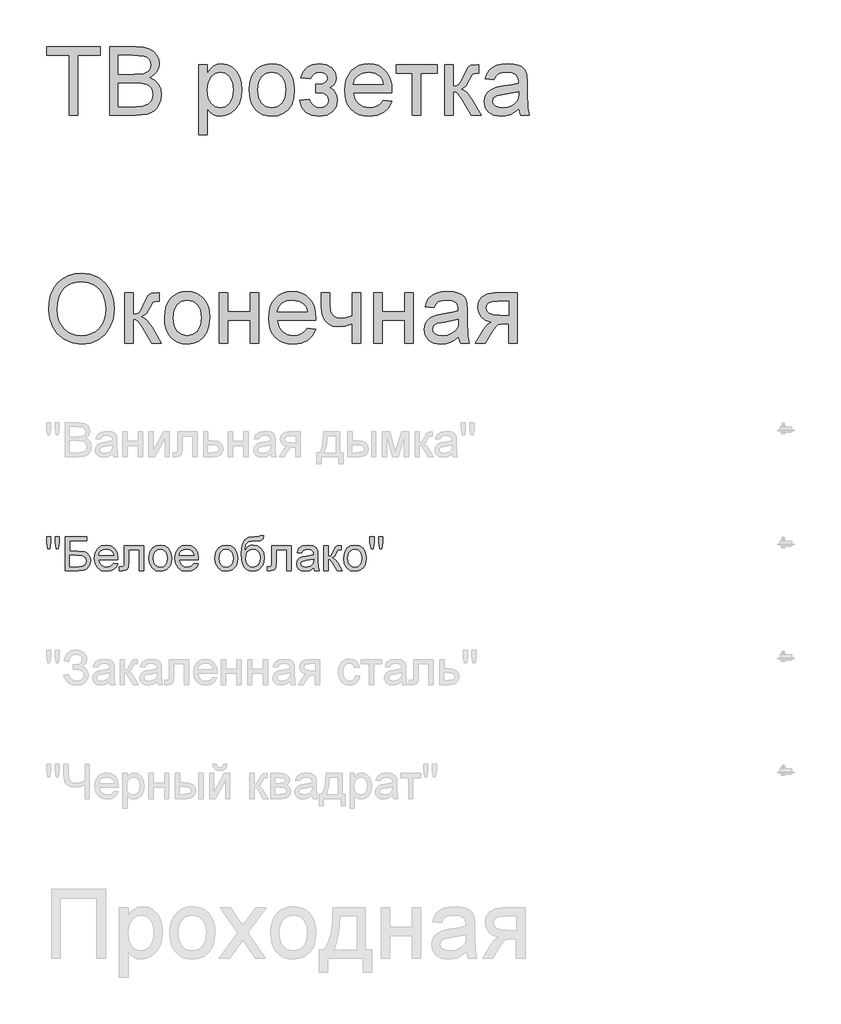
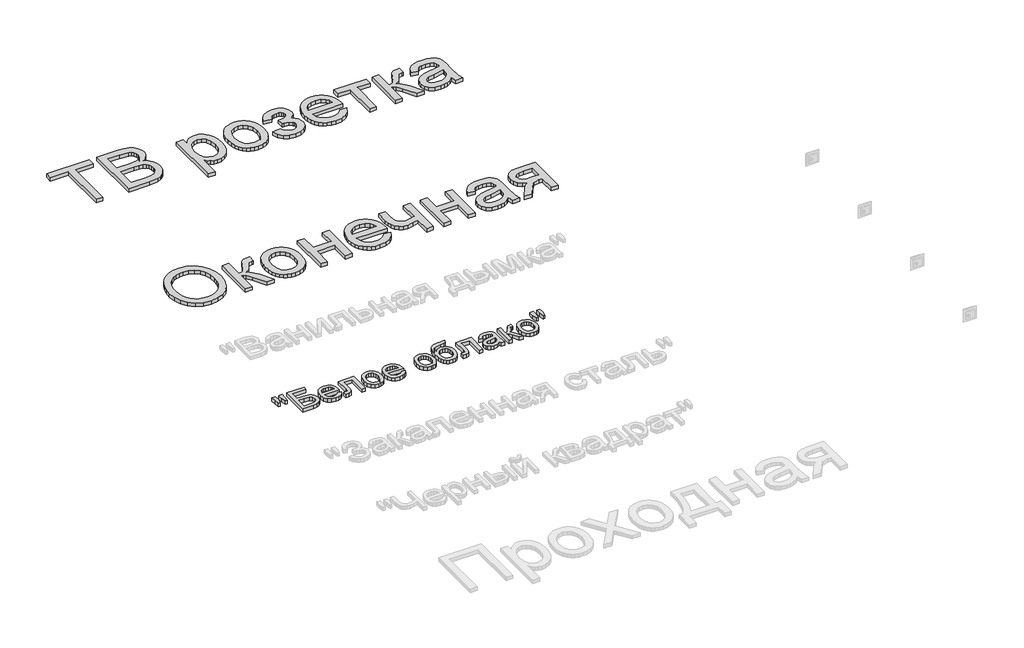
# One storey, part 149 of 168: 3 proxies.
"""IFC4 building model written with IfcOpenShell, lengths in millimetres."""

from ifc_helpers import new_model, si_unit, origin, origin_with_axes, place, context, project, spatial, polyline, outline, extrude, element, save

model = new_model("IFC4")

# Units and contexts
model_context = context("Model", 3, world=origin())
ifc_project = project(units=[si_unit("LENGTHUNIT", "METRE", prefix="MILLI")], contexts=[model_context])

# Site, building, storey
site = spatial("IfcSite", under=ifc_project)
building = spatial("IfcBuilding", under=site)
storey = spatial("IfcBuildingStorey", under=building, Name="Этаж 01", Elevation=0.0)

# Proxies
placement = place(None, origin())
element("IfcBuildingElementProxy", 1, Name="300 мм Arial 2", ObjectType="300 мм Arial 2", at=placement, inside=storey, context=model_context, shape_type="SweptSolid", body=[
    extrude(outline(polyline([(63674.4367343, -13648.4056816), (63674.4367343, -13384.7078674), (63575.550054, -13384.7078674), (63575.550054, -13347.0367511), (63810.9945309, -13347.0367511), (63810.9945309, -13384.7078674), (63712.1078506, -13384.7078674), (63712.1078506, -13648.4056816), (63674.4367343, -13648.4056816)])), origin_with_axes(), (0.0, 0.0, 1.0), 20.0),
    extrude(outline(polyline([(63853.3745367, -13648.4056816), (63853.3745367, -13347.0367511), (63968.3744484, -13347.0367511), (64000.003103, -13349.2532401), (64024.6971819, -13355.9027072), (64043.6247105, -13367.1506992), (64057.9537142, -13383.162763), (64066.9760202, -13401.9983212), (64069.9834555, -13421.7167961), (64067.4542668, -13439.8625756), (64059.8667006, -13456.9231031), (64047.1655747, -13471.849915), (64029.2957068, -13483.5945477), (64050.6420596, -13494.7413722), (64066.4150001, -13511.7007322), (64076.154676, -13533.3505876), (64079.4012346, -13558.5688983), (64077.1847455, -13579.5841573), (64070.5352785, -13599.072706), (64060.6116617, -13615.6457899), (64048.5727234, -13627.9146544), (64033.8298524, -13636.7990046), (64015.7944376, -13643.2185454), (63967.4915316, -13648.4056816), (63853.3745367, -13648.4056816)]), holes=[polyline([(63891.045653, -13469.4678791), (63959.8395861, -13469.4678791), (64000.0123, -13466.2305176), (64014.0745893, -13460.6479083), (64024.1821471, -13452.2877899), (64030.2797912, -13441.2789212), (64032.3123392, -13427.7500609), (64030.4177469, -13414.6166736), (64024.7339701, -13403.1755436), (64015.5185261, -13394.2452082), (64003.0289324, -13388.6442048), (63954.6156618, -13384.7078674), (63891.045653, -13384.7078674), (63891.045653, -13469.4678791)]), polyline([(63891.045653, -13610.7345653), (63968.300872, -13610.7345653), (63996.2599037, -13609.2630373), (64019.9147159, -13601.0592688), (64035.5864889, -13584.320638), (64040.1942109, -13572.4932319), (64041.7301183, -13558.9367803), (64039.9274965, -13543.1914309), (64034.5196311, -13529.6533735), (64025.0742609, -13519.0675691), (64011.1591245, -13512.1789788), (63991.4498466, -13508.3989913), (63964.6220521, -13507.1389954), (63891.045653, -13507.1389954), (63891.045653, -13610.7345653)])]), origin_with_axes(), (0.0, 0.0, 1.0), 20.0),
    extrude(outline(polyline([(64244.2123684, -13733.1656933), (64244.2123684, -13427.0878733), (64281.8834847, -13427.0878733), (64281.8834847, -13464.0232256), (64294.1707433, -13445.8038698), (64307.92953, -13432.7900442), (64323.969185, -13424.9817488), (64343.0990487, -13422.3789837), (64368.5748769, -13426.0210155), (64390.8501317, -13436.9471107), (64408.986714, -13454.4950819), (64422.0465249, -13478.0027414), (64429.9375937, -13505.7594379), (64432.5679499, -13536.0545202), (64429.5973028, -13568.271786), (64420.6853615, -13597.0861432), (64406.1172345, -13621.0352611), (64386.1780303, -13638.6568087), (64362.9554794, -13649.5001305), (64338.537312, -13653.1145711), (64321.219267, -13650.695747), (64305.7590262, -13643.4392746), (64292.5244714, -13632.4855882), (64281.8834847, -13618.975122), (64281.8834847, -13733.1656933), (64244.2123684, -13733.1656933)]), holes=[polyline([(64281.8834847, -13539.512611), (64285.9577778, -13573.2841782), (64298.1806571, -13596.9022022), (64316.2160719, -13610.8081417), (64337.7279716, -13615.4434548), (64359.5893591, -13610.6425948), (64378.0846264, -13596.2400147), (64390.6937818, -13571.7574679), (64394.8968336, -13536.7167078), (64390.7949494, -13503.1290817), (64378.4892966, -13479.1799638), (64360.481473, -13464.832566), (64339.273076, -13460.0501), (64317.9819055, -13465.1360686), (64299.2843031, -13480.3939744), (64286.2336893, -13505.3455707), (64281.8834847, -13539.512611)])]), origin_with_axes(), (0.0, 0.0, 1.0), 20.0),
    extrude(outline(polyline([(64465.5301767, -13537.7467774), (64467.5673232, -13509.0841715), (64473.6787629, -13484.385494), (64483.8644956, -13463.6507451), (64498.1245215, -13446.8799246), (64512.4811163, -13436.160763), (64528.3276333, -13428.504219), (64545.6640723, -13423.9102925), (64564.4904334, -13422.3789837), (64585.2734669, -13424.2436856), (64604.065339, -13429.8377912), (64620.8660499, -13439.1613005), (64635.6755995, -13452.2142135), (64647.7628223, -13468.5550719), (64656.3965528, -13487.7424172), (64661.5767912, -13509.7762495), (64663.3035373, -13534.6565687), (64660.2501167, -13572.7139611), (64651.0898551, -13601.6846682), (64636.0894667, -13623.3805088), (64615.5156661, -13639.6133019), (64591.0791046, -13649.7392538), (64564.4904334, -13653.1145711), (64543.4038973, -13651.256767), (64524.4372812, -13645.6833548), (64507.5905851, -13636.3943344), (64492.8638089, -13623.3897059), (64480.9053448, -13606.8901984), (64472.3635848, -13587.1165412), (64467.2385287, -13564.0687342), (64465.5301767, -13537.7467774)]), holes=[polyline([(64503.201293, -13537.673201), (64507.5606946, -13571.7666649), (64520.6388996, -13596.0560737), (64540.3205863, -13610.5966095), (64564.4904334, -13615.4434548), (64588.5499159, -13610.5690184), (64608.1948144, -13595.9457091), (64621.2730194, -13571.3344036), (64625.632421, -13536.4959786), (64621.2454282, -13503.3957961), (64608.0844498, -13479.4374812), (64588.4119601, -13464.8969453), (64564.4904334, -13460.0501), (64540.3205863, -13464.8785512), (64520.6388996, -13479.3639048), (64507.5606946, -13503.5981312), (64503.201293, -13537.673201)])]), origin_with_axes(), (0.0, 0.0, 1.0), 20.0),
    extrude(outline(polyline([(64757.4813281, -13549.5190013), (64757.4813281, -13511.847885), (64787.2061933, -13510.376357), (64802.2157787, -13502.5404705), (64807.5132794, -13495.1920276), (64809.279113, -13486.1697217), (64806.9154712, -13475.4551586), (64799.8245457, -13467.1502225), (64788.999618, -13461.8251307), (64775.4339694, -13460.0501), (64761.7211681, -13461.8159336), (64750.2340528, -13467.1134343), (64740.9726235, -13475.9426022), (64733.9368804, -13488.3034373), (64691.5568745, -13483.5945477), (64702.7956695, -13456.8127385), (64719.8837882, -13437.6828747), (64742.8212306, -13426.2049565), (64771.6079967, -13422.3789837), (64803.0986955, -13427.041888), (64826.9374488, -13441.0306009), (64841.9470342, -13461.4940369), (64846.9502293, -13485.5811105), (64845.1706001, -13497.9419455), (64839.8317127, -13508.9784054), (64830.9335669, -13518.6904901), (64818.4761629, -13527.0781996), (64833.0166987, -13537.5444423), (64843.3817739, -13550.5490709), (64849.5897826, -13566.1288733), (64851.6591188, -13584.320638), (64846.4076034, -13612.0497434), (64830.6530569, -13634.0214956), (64805.4623373, -13648.3413022), (64771.9023023, -13653.1145711), (64739.0780313, -13648.6999872), (64713.960888, -13635.4562353), (64696.5508726, -13613.3833156), (64686.847985, -13582.481228), (64729.2279908, -13577.7723385), (64735.5739553, -13593.7016289), (64746.224139, -13605.5842173), (64759.9461374, -13612.9786454), (64775.5075458, -13615.4434548), (64790.664284, -13613.079813), (64803.0251191, -13605.9888875), (64811.2472817, -13595.2191421), (64813.9880025, -13581.8190404), (64812.2865483, -13571.2056449), (64807.1821856, -13562.0269891), (64792.687635, -13551.4319876), (64764.838968, -13549.2982721), (64757.4813281, -13549.5190013)])), origin_with_axes(), (0.0, 0.0, 1.0), 20.0),
    extrude(outline(polyline([(65053.6999106, -13582.481228), (65090.6352629, -13587.1901176), (65077.3271317, -13615.0203905), (65056.0911436, -13635.8241173), (65027.405545, -13648.7919577), (64991.7485826, -13653.1145711), (64968.3742803, -13651.2498692), (64947.5475609, -13645.6557637), (64929.2684242, -13636.3322543), (64913.5368704, -13623.2793413), (64900.8863283, -13606.860308), (64891.8502268, -13587.4384379), (64886.4285659, -13565.013731), (64884.6213456, -13539.5861874), (64886.44696, -13513.2964203), (64891.9238032, -13490.1244531), (64901.0518752, -13470.0702859), (64913.831176, -13453.1339185), (64929.5213431, -13439.6786346), (64947.382014, -13430.0677174), (64967.4131886, -13424.3011672), (64989.614867, -13422.3789837), (65011.1014748, -13424.2965686), (65030.5325419, -13430.0493233), (65047.9080684, -13439.6372478), (65063.2280543, -13453.0603421), (65075.7337428, -13469.9599213), (65084.6663775, -13489.9773003), (65090.0259583, -13513.1124793), (65091.8124853, -13539.3654582), (65091.5917561, -13549.5190013), (64922.2924619, -13549.5190013), (64928.8131703, -13577.7171562), (64943.9607114, -13598.4473066), (64965.822099, -13611.1944178), (64992.4843466, -13615.4434548), (65012.5339153, -13613.4752861), (65029.4196989, -13607.5707801), (65043.1416973, -13597.3620547), (65053.6999106, -13582.481228)]), holes=[polyline([(64922.2924619, -13511.847885), (65054.141369, -13511.847885), (65049.0462033, -13491.945469), (65039.0582072, -13477.7084358), (65017.0956521, -13464.464684), (64989.4677142, -13460.0501), (64964.0746595, -13463.5725701), (64943.0777946, -13474.1399805), (64928.4820765, -13490.6118968), (64922.2924619, -13511.847885)])]), origin_with_axes(), (0.0, 0.0, 1.0), 20.0),
    extrude(outline(polyline([(65110.6480434, -13427.0878733), (65289.5858459, -13427.0878733), (65289.5858459, -13464.7589896), (65218.9525028, -13464.7589896), (65218.9525028, -13648.4056816), (65181.2813865, -13648.4056816), (65181.2813865, -13464.7589896), (65110.6480434, -13464.7589896), (65110.6480434, -13427.0878733)])), origin_with_axes(), (0.0, 0.0, 1.0), 20.0),
    extrude(outline(polyline([(65322.5480727, -13427.0878733), (65360.219189, -13427.0878733), (65360.219189, -13521.265664), (65375.5414741, -13519.5734069), (65385.4558938, -13514.4966353), (65394.2298794, -13501.2528835), (65406.130862, -13475.0596854), (65423.3109511, -13441.0306009), (65438.4676893, -13429.9573528), (65466.0220508, -13427.0878733), (65473.2325379, -13427.0878733), (65473.2325379, -13464.9797188), (65463.0789948, -13464.7589896), (65444.6848951, -13468.7321151), (65431.7354488, -13493.5273616), (65416.5419224, -13520.345959), (65395.2415549, -13533.4793463), (65407.1793257, -13538.7814455), (65419.0067318, -13548.1394438), (65442.3304503, -13579.0231373), (65482.650317, -13648.4056816), (65439.8288527, -13648.4056816), (65400.3183264, -13580.4946653), (65380.4526987, -13551.7630814), (65371.1636783, -13546.5483542), (65360.219189, -13544.8101117), (65360.219189, -13648.4056816), (65322.5480727, -13648.4056816), (65322.5480727, -13427.0878733)])), origin_with_axes(), (0.0, 0.0, 1.0), 20.0),
    extrude(outline(polyline([(65647.4614508, -13620.1523443), (65629.4628242, -13635.584994), (65610.9307687, -13645.6833548), (65591.44222, -13651.256767), (65570.5741138, -13653.1145711), (65539.0926121, -13648.6448049), (65515.8700611, -13635.2355061), (65501.5502545, -13614.8732377), (65496.7769856, -13589.5445623), (65498.5796074, -13573.9279716), (65503.9874727, -13559.7461207), (65512.3291969, -13547.6060149), (65522.9333954, -13538.1146594), (65549.3105345, -13525.7538244), (65581.9048793, -13520.0884417), (65620.4221242, -13514.1287533), (65647.2407216, -13507.1389954), (65647.4614508, -13498.7512859), (65644.8678827, -13481.9390788), (65637.0871785, -13470.9394071), (65619.6863602, -13462.7724268), (65595.4429367, -13460.0501), (65573.002135, -13461.8619189), (65557.330362, -13467.2973753), (65546.64339, -13477.3497509), (65539.1569914, -13493.0123268), (65501.4858751, -13488.3034373), (65508.0249776, -13467.7020455), (65517.7830475, -13451.5152378), (65531.6705928, -13439.1360086), (65550.5981215, -13429.9573528), (65573.747096, -13424.273576), (65600.298979, -13422.3789837), (65625.7656101, -13424.0528468), (65645.9531346, -13429.074436), (65661.1742522, -13436.625214), (65671.7416625, -13445.8866432), (65678.7498145, -13457.3369703), (65683.2931571, -13471.4544419), (65685.1325671, -13504.4166687), (65685.1325671, -13551.2848348), (65687.0455535, -13616.7310418), (65694.5503462, -13648.4056816), (65656.8792299, -13648.4056816), (65647.4614508, -13620.1523443)]), holes=[polyline([(65647.4614508, -13544.8101117), (65586.6873452, -13556.3616064), (65554.2769414, -13562.4684475), (65539.5984498, -13572.4012614), (65534.4481019, -13586.895812), (65537.2532021, -13598.0978187), (65545.6685027, -13607.2764745), (65559.5100628, -13613.4017097), (65578.5939413, -13615.4434548), (65598.827451, -13613.1901776), (65616.706516, -13606.4303459), (65631.2010666, -13596.4699409), (65641.2810333, -13584.6149436), (65645.7507995, -13572.4012614), (65647.2407216, -13555.4786896), (65647.4614508, -13544.8101117)])]), origin_with_axes(), (0.0, 0.0, 1.0), 20.0),
])
element("IfcBuildingElementProxy", 2, Name="300 мм Arial 2", ObjectType="300 мм Arial 2", at=placement, inside=storey, context=model_context, shape_type="SweptSolid", body=[
    extrude(outline(polyline([(63584.967833, -14501.6943419), (63587.4786277, -14466.3454807), (63595.0110115, -14435.0525185), (63607.5649846, -14407.8154552), (63625.1405469, -14384.634291), (63646.6846363, -14366.1252281), (63671.1441904, -14352.9044689), (63698.5192094, -14344.9720134), (63728.8096932, -14342.3278616), (63768.3386135, -14347.2942685), (63803.7840438, -14362.1934893), (63833.2146034, -14385.9770603), (63854.6989119, -14417.5965178), (63867.8322991, -14455.5251515), (63872.2100949, -14498.2362511), (63867.6023729, -14541.5175679), (63853.7792069, -14579.9796305), (63831.5039521, -14611.6542703), (63801.5399636, -14634.5733186), (63766.398036, -14648.479258), (63728.588964, -14653.1145711), (63688.4530383, -14647.9918143), (63652.805273, -14632.623544), (63623.4482897, -14608.3985146), (63602.1847104, -14576.7054807), (63589.2720524, -14540.2391779), (63584.967833, -14501.6943419)]), holes=[polyline([(63622.6389493, -14502.0622239), (63624.5220453, -14527.0368128), (63630.1713332, -14549.2063016), (63639.586813, -14568.5706901), (63652.7684848, -14585.1299784), (63668.7920449, -14598.3921243), (63686.73319, -14607.8650857), (63706.5919199, -14613.5488625), (63728.3682348, -14615.4434548), (63750.5170301, -14613.5304684), (63770.6102849, -14607.7915093), (63788.6479989, -14598.2265774), (63804.6301724, -14584.8356728), (63817.7152751, -14567.9268966), (63827.061777, -14547.80835), (63832.6696782, -14524.480033), (63834.5389786, -14497.9419455), (63831.3384052, -14464.5934427), (63821.7366851, -14435.7698884), (63805.9821387, -14412.1978495), (63784.3230862, -14394.6038931), (63758.1942675, -14383.6502067), (63729.0304224, -14379.9989779), (63708.0105649, -14381.7579137), (63688.5082206, -14387.034721), (63670.5233895, -14395.8294), (63654.0560717, -14408.1419505), (63640.3110807, -14424.5655823), (63630.4932299, -14445.6935052), (63624.6025195, -14471.525719), (63622.6389493, -14502.0622239)])]), origin_with_axes(), (0.0, 0.0, 1.0), 20.0),
    extrude(outline(polyline([(63919.2989903, -14427.0878733), (63956.9701066, -14427.0878733), (63956.9701066, -14521.265664), (63972.2923917, -14519.5734069), (63982.2068114, -14514.4966353), (63990.980797, -14501.2528835), (64002.8817796, -14475.0596854), (64020.0618687, -14441.0306009), (64035.2186069, -14429.9573528), (64062.7729684, -14427.0878733), (64069.9834555, -14427.0878733), (64069.9834555, -14464.9797188), (64059.8299124, -14464.7589896), (64041.4358127, -14468.7321151), (64028.4863664, -14493.5273616), (64013.29284, -14520.345959), (63991.9924725, -14533.4793463), (64003.9302433, -14538.7814455), (64015.7576494, -14548.1394438), (64039.0813679, -14579.0231373), (64079.4012346, -14648.4056816), (64036.5797703, -14648.4056816), (63997.069244, -14580.4946653), (63977.2036163, -14551.7630814), (63967.9145959, -14546.5483542), (63956.9701066, -14544.8101117), (63956.9701066, -14648.4056816), (63919.2989903, -14648.4056816), (63919.2989903, -14427.0878733)])), origin_with_axes(), (0.0, 0.0, 1.0), 20.0),
    extrude(outline(polyline([(64093.5279032, -14537.7467774), (64095.5650497, -14509.0841715), (64101.6764894, -14484.385494), (64111.8622221, -14463.6507451), (64126.1222479, -14446.8799246), (64140.4788428, -14436.160763), (64156.3253598, -14428.504219), (64173.6617988, -14423.9102925), (64192.4881599, -14422.3789837), (64213.2711933, -14424.2436856), (64232.0630655, -14429.8377912), (64248.8637764, -14439.1613005), (64263.6733259, -14452.2142135), (64275.7605487, -14468.5550719), (64284.3942793, -14487.7424172), (64289.5745177, -14509.7762495), (64291.3012638, -14534.6565687), (64288.2478432, -14572.7139611), (64279.0875815, -14601.6846682), (64264.0871932, -14623.3805088), (64243.5133926, -14639.6133019), (64219.0768311, -14649.7392538), (64192.4881599, -14653.1145711), (64171.4016238, -14651.256767), (64152.4350077, -14645.6833548), (64135.5883115, -14636.3943344), (64120.8615354, -14623.3897059), (64108.9030713, -14606.8901984), (64100.3613112, -14587.1165412), (64095.2362552, -14564.0687342), (64093.5279032, -14537.7467774)]), holes=[polyline([(64131.1990195, -14537.673201), (64135.5584211, -14571.7666649), (64148.6366261, -14596.0560737), (64168.3183128, -14610.5966095), (64192.4881599, -14615.4434548), (64216.5476424, -14610.5690184), (64236.1925409, -14595.9457091), (64249.2707458, -14571.3344036), (64253.6301475, -14536.4959786), (64249.2431547, -14503.3957961), (64236.0821763, -14479.4374812), (64216.4096866, -14464.8969453), (64192.4881599, -14460.0501), (64168.3183128, -14464.8785512), (64148.6366261, -14479.3639048), (64135.5584211, -14503.5981312), (64131.1990195, -14537.673201)])]), origin_with_axes(), (0.0, 0.0, 1.0), 20.0),
    extrude(outline(polyline([(64333.6812696, -14427.0878733), (64371.3523859, -14427.0878733), (64371.3523859, -14511.847885), (64470.2390662, -14511.847885), (64470.2390662, -14427.0878733), (64507.9101825, -14427.0878733), (64507.9101825, -14648.4056816), (64470.2390662, -14648.4056816), (64470.2390662, -14549.5190013), (64371.3523859, -14549.5190013), (64371.3523859, -14648.4056816), (64333.6812696, -14648.4056816), (64333.6812696, -14427.0878733)])), origin_with_axes(), (0.0, 0.0, 1.0), 20.0),
    extrude(outline(polyline([(64719.3687534, -14582.481228), (64756.3041057, -14587.1901176), (64742.9959745, -14615.0203905), (64721.7599863, -14635.8241173), (64693.0743878, -14648.7919577), (64657.4174254, -14653.1145711), (64634.0431231, -14651.2498692), (64613.2164037, -14645.6557637), (64594.937267, -14636.3322543), (64579.2057132, -14623.2793413), (64566.5551711, -14606.860308), (64557.5190696, -14587.4384379), (64552.0974087, -14565.013731), (64550.2901884, -14539.5861874), (64552.1158028, -14513.2964203), (64557.592646, -14490.1244531), (64566.720718, -14470.0702859), (64579.5000188, -14453.1339185), (64595.1901859, -14439.6786346), (64613.0508568, -14430.0677174), (64633.0820314, -14424.3011672), (64655.2837098, -14422.3789837), (64676.7703176, -14424.2965686), (64696.2013847, -14430.0493233), (64713.5769112, -14439.6372478), (64728.896897, -14453.0603421), (64741.4025856, -14469.9599213), (64750.3352203, -14489.9773003), (64755.6948011, -14513.1124793), (64757.4813281, -14539.3654582), (64757.2605989, -14549.5190013), (64587.9613047, -14549.5190013), (64594.4820131, -14577.7171562), (64609.6295542, -14598.4473066), (64631.4909418, -14611.1944178), (64658.1531894, -14615.4434548), (64678.2027581, -14613.4752861), (64695.0885417, -14607.5707801), (64708.8105401, -14597.3620547), (64719.3687534, -14582.481228)]), holes=[polyline([(64587.9613047, -14511.847885), (64719.8102118, -14511.847885), (64714.7150461, -14491.945469), (64704.72705, -14477.7084358), (64682.7644949, -14464.464684), (64655.136557, -14460.0501), (64629.7435023, -14463.5725701), (64608.7466374, -14474.1399805), (64594.1509193, -14490.6118968), (64587.9613047, -14511.847885)])]), origin_with_axes(), (0.0, 0.0, 1.0), 20.0),
    extrude(outline(polyline([(64781.0257758, -14427.0878733), (64818.6968921, -14427.0878733), (64818.6968921, -14469.5414555), (64821.7503126, -14509.3462874), (64826.9466458, -14520.9161761), (64836.4288042, -14530.9041723), (64849.5254033, -14537.8019597), (64865.5650583, -14540.1012222), (64888.6128653, -14537.2501367), (64917.5835724, -14528.6968803), (64917.5835724, -14427.0878733), (64955.2546887, -14427.0878733), (64955.2546887, -14648.4056816), (64917.5835724, -14648.4056816), (64917.5835724, -14564.8228923), (64885.430686, -14574.5349769), (64855.4850916, -14577.7723385), (64832.703999, -14574.3970212), (64812.7739919, -14564.2710693), (64797.2401747, -14549.2522868), (64787.6476517, -14531.1984779), (64782.6812447, -14510.6522685), (64781.0257758, -14488.1562845), (64781.0257758, -14427.0878733)])), origin_with_axes(), (0.0, 0.0, 1.0), 20.0),
    extrude(outline(polyline([(65011.7613631, -14427.0878733), (65049.4324794, -14427.0878733), (65049.4324794, -14511.847885), (65148.3191597, -14511.847885), (65148.3191597, -14427.0878733), (65185.9902761, -14427.0878733), (65185.9902761, -14648.4056816), (65148.3191597, -14648.4056816), (65148.3191597, -14549.5190013), (65049.4324794, -14549.5190013), (65049.4324794, -14648.4056816), (65011.7613631, -14648.4056816), (65011.7613631, -14427.0878733)])), origin_with_axes(), (0.0, 0.0, 1.0), 20.0),
    extrude(outline(polyline([(65383.7636367, -14620.1523443), (65365.76501, -14635.584994), (65347.2329545, -14645.6833548), (65327.7444058, -14651.256767), (65306.8762997, -14653.1145711), (65275.3947979, -14648.6448049), (65252.172247, -14635.2355061), (65237.8524403, -14614.8732377), (65233.0791714, -14589.5445623), (65234.8817932, -14573.9279716), (65240.2896585, -14559.7461207), (65248.6313828, -14547.6060149), (65259.2355813, -14538.1146594), (65285.6127203, -14525.7538244), (65318.2070651, -14520.0884417), (65356.72431, -14514.1287533), (65383.5429075, -14507.1389954), (65383.7636367, -14498.7512859), (65381.1700686, -14481.9390788), (65373.3893644, -14470.9394071), (65355.988546, -14462.7724268), (65331.7451225, -14460.0501), (65309.3043208, -14461.8619189), (65293.6325478, -14467.2973753), (65282.9455759, -14477.3497509), (65275.4591773, -14493.0123268), (65237.788061, -14488.3034373), (65244.3271634, -14467.7020455), (65254.0852334, -14451.5152378), (65267.9727787, -14439.1360086), (65286.9003073, -14429.9573528), (65310.0492819, -14424.273576), (65336.6011649, -14422.3789837), (65362.067796, -14424.0528468), (65382.2553205, -14429.074436), (65397.476438, -14436.625214), (65408.0438483, -14445.8866432), (65415.0520003, -14457.3369703), (65419.595343, -14471.4544419), (65421.434753, -14504.4166687), (65421.434753, -14551.2848348), (65423.3477393, -14616.7310418), (65430.852532, -14648.4056816), (65393.1814157, -14648.4056816), (65383.7636367, -14620.1523443)]), holes=[polyline([(65383.7636367, -14544.8101117), (65322.9895311, -14556.3616064), (65290.5791273, -14562.4684475), (65275.9006357, -14572.4012614), (65270.7502877, -14586.895812), (65273.555388, -14598.0978187), (65281.9706886, -14607.2764745), (65295.8122487, -14613.4017097), (65314.8961272, -14615.4434548), (65335.1296369, -14613.1901776), (65353.0087019, -14606.4303459), (65367.5032525, -14596.4699409), (65377.5832191, -14584.6149436), (65382.0529854, -14572.4012614), (65383.5429075, -14555.4786896), (65383.7636367, -14544.8101117)])]), origin_with_axes(), (0.0, 0.0, 1.0), 20.0),
    extrude(outline(polyline([(65642.7525613, -14427.0878733), (65642.7525613, -14648.4056816), (65605.081445, -14648.4056816), (65605.081445, -14563.6456699), (65584.5536296, -14563.6456699), (65556.594598, -14568.4281358), (65545.4293794, -14578.8575904), (65530.3278235, -14600.5810222), (65500.3086527, -14648.4056816), (65456.7514245, -14648.4056816), (65494.5696936, -14587.9258816), (65511.2715362, -14566.2208438), (65526.6490036, -14556.5823356), (65500.8972639, -14548.6912668), (65482.7974698, -14533.7000755), (65472.0921037, -14513.7608713), (65468.5236483, -14491.025764), (65473.3980848, -14465.2372362), (65488.0213941, -14444.8197854), (65511.8785415, -14431.5208513), (65544.4544922, -14427.0878733), (65642.7525613, -14427.0878733)]), holes=[polyline([(65605.081445, -14464.7589896), (65555.4173756, -14464.7589896), (65529.7668035, -14466.9386904), (65515.2078735, -14473.4777929), (65508.4480419, -14482.9415572), (65506.1947647, -14493.8952436), (65509.5148997, -14508.2518385), (65519.4753047, -14518.2122435), (65537.8786015, -14524.033976), (65566.5274119, -14525.9745536), (65605.081445, -14525.9745536), (65605.081445, -14464.7589896)])]), origin_with_axes(), (0.0, 0.0, 1.0), 20.0),
])
element("IfcBuildingElementProxy", 3, Name="150", ObjectType="150", at=placement, inside=storey, context=model_context, shape_type="SweptSolid", body=[
    extrude(outline(polyline([(63580.1485789, -15551.873446), (63575.550054, -15522.7739802), (63575.550054, -15497.7212163), (63594.3856121, -15497.7212163), (63594.3856121, -15522.7739802), (63590.2653338, -15551.873446), (63580.1485789, -15551.873446)])), origin_with_axes(), (0.0, 0.0, 1.0), 20.0),
    extrude(outline(polyline([(63617.7093306, -15551.873446), (63613.2211703, -15522.7739802), (63613.2211703, -15497.7212163), (63632.0567284, -15497.7212163), (63632.0567284, -15522.7739802), (63627.6421445, -15551.873446), (63617.7093306, -15551.873446)])), origin_with_axes(), (0.0, 0.0, 1.0), 20.0),
    extrude(outline(polyline([(63657.9556209, -15497.7212163), (63752.1334117, -15497.7212163), (63752.1334117, -15516.5567745), (63676.791179, -15516.5567745), (63676.791179, -15561.2912251), (63712.0710624, -15561.2912251), (63743.157091, -15565.1171979), (63753.5589544, -15570.6446248), (63761.6615553, -15579.5749603), (63766.8762826, -15591.0712726), (63768.614525, -15604.2966303), (63763.6665122, -15625.7625448), (63748.8960501, -15642.0781113), (63735.6247071, -15646.823789), (63715.4555767, -15648.4056816), (63657.9556209, -15648.4056816), (63657.9556209, -15497.7212163)]), holes=[polyline([(63676.791179, -15629.5701234), (63717.1478339, -15629.5701234), (63731.4124583, -15628.015822), (63741.6119866, -15623.3529177), (63747.7372218, -15615.5814105), (63749.7789669, -15604.7013005), (63745.1068655, -15589.9492325), (63732.102237, -15582.0765578), (63703.7201411, -15580.1267833), (63676.791179, -15580.1267833), (63676.791179, -15629.5701234)])]), origin_with_axes(), (0.0, 0.0, 1.0), 20.0),
    extrude(outline(polyline([(63869.6349209, -15615.4434548), (63888.1025971, -15617.7978996), (63881.4485315, -15631.713036), (63870.8305374, -15642.1148995), (63856.4877381, -15648.5988196), (63838.6592569, -15650.7601263), (63816.5587461, -15647.0307226), (63799.5534008, -15635.8425114), (63788.710079, -15617.9220597), (63785.0956384, -15593.9959345), (63788.7468672, -15569.2650674), (63799.7005536, -15550.7698), (63816.4759726, -15539.2366995), (63837.5923991, -15535.3923327), (63858.0512366, -15539.2275025), (63874.3989927, -15550.7330118), (63885.1181544, -15569.191491), (63888.6912083, -15593.8855699), (63888.5808437, -15598.9623414), (63803.9311966, -15598.9623414), (63807.1915508, -15613.0614189), (63814.7653213, -15623.4264941), (63825.6960151, -15629.8000497), (63839.0271389, -15631.9245682), (63857.4948151, -15627.9882308), (63869.6349209, -15615.4434548)]), holes=[polyline([(63803.9311966, -15580.1267833), (63869.8556501, -15580.1267833), (63867.3080673, -15570.1755753), (63862.3140692, -15563.0570587), (63851.3327917, -15556.4351828), (63837.5188227, -15554.2278908), (63824.8222954, -15555.9891259), (63814.3238629, -15561.272831), (63807.0260039, -15569.5087892), (63803.9311966, -15580.1267833)])]), origin_with_axes(), (0.0, 0.0, 1.0), 20.0),
    extrude(outline(polyline([(63916.9445455, -15537.7467774), (64001.7045572, -15537.7467774), (64001.7045572, -15648.295317), (63982.868999, -15648.295317), (63982.868999, -15556.5823356), (63935.7801036, -15556.5823356), (63935.7801036, -15609.3734019), (63934.5109108, -15633.72719), (63927.539547, -15644.0094917), (63911.0584336, -15648.4056816), (63895.7545426, -15647.4491884), (63895.7545426, -15629.5701234), (63904.1790403, -15629.5701234), (63912.6955084, -15628.4112951), (63916.0984169, -15624.7324752), (63916.9445455, -15608.3065441), (63916.9445455, -15537.7467774)])), origin_with_axes(), (0.0, 0.0, 1.0), 20.0),
    extrude(outline(polyline([(64025.2490049, -15593.0762295), (64029.323298, -15566.3955878), (64041.5461773, -15547.6428031), (64056.6477332, -15538.4549503), (64074.7291332, -15535.3923327), (64094.516586, -15539.1217364), (64110.3217163, -15550.3099476), (64120.6821929, -15568.0740494), (64124.1356852, -15591.5311251), (64122.6089749, -15610.5598213), (64118.0288441, -15625.0451749), (64110.5286499, -15635.8930952), (64100.2417496, -15644.0094917), (64088.0234688, -15649.0724677), (64074.7291332, -15650.7601263), (64054.7025571, -15647.0445182), (64038.915821, -15635.8976937), (64028.6657089, -15617.7611114), (64025.2490049, -15593.0762295)]), holes=[polyline([(64044.084563, -15593.0394413), (64046.2642638, -15610.0861732), (64052.8033663, -15622.2308776), (64062.6442097, -15629.5011455), (64074.7291332, -15631.9245682), (64086.7588745, -15629.48735), (64096.5813237, -15622.1756953), (64103.1204262, -15609.8700426), (64105.300127, -15592.4508301), (64103.1066306, -15575.9007388), (64096.5261414, -15563.9215814), (64086.6898966, -15556.6513134), (64074.7291332, -15554.2278908), (64062.6442097, -15556.6421164), (64052.8033663, -15563.8847932), (64046.2642638, -15576.0019064), (64044.084563, -15593.0394413)])]), origin_with_axes(), (0.0, 0.0, 1.0), 20.0),
    extrude(outline(polyline([(64222.8016363, -15615.4434548), (64241.2693124, -15617.7978996), (64234.6152469, -15631.713036), (64223.9972528, -15642.1148995), (64209.6544535, -15648.5988196), (64191.8259723, -15650.7601263), (64169.7254614, -15647.0307226), (64152.7201162, -15635.8425114), (64141.8767944, -15617.9220597), (64138.2623538, -15593.9959345), (64141.9135826, -15569.2650674), (64152.867269, -15550.7698), (64169.642688, -15539.2366995), (64190.7591145, -15535.3923327), (64211.217952, -15539.2275025), (64227.5657081, -15550.7330118), (64238.2848698, -15569.191491), (64241.8579236, -15593.8855699), (64241.747559, -15598.9623414), (64157.0979119, -15598.9623414), (64160.3582661, -15613.0614189), (64167.9320367, -15623.4264941), (64178.8627305, -15629.8000497), (64192.1938543, -15631.9245682), (64210.6615304, -15627.9882308), (64222.8016363, -15615.4434548)]), holes=[polyline([(64157.0979119, -15580.1267833), (64223.0223655, -15580.1267833), (64220.4747827, -15570.1755753), (64215.4807846, -15563.0570587), (64204.499507, -15556.4351828), (64190.6855381, -15554.2278908), (64177.9890107, -15555.9891259), (64167.4905783, -15561.272831), (64160.1927192, -15569.5087892), (64157.0979119, -15580.1267833)])]), origin_with_axes(), (0.0, 0.0, 1.0), 20.0),
    extrude(outline(polyline([(64314.8457115, -15593.0762295), (64318.9200046, -15566.3955878), (64331.1428839, -15547.6428031), (64346.2444398, -15538.4549503), (64364.3258398, -15535.3923327), (64384.1132926, -15539.1217364), (64399.9184229, -15550.3099476), (64410.2788995, -15568.0740494), (64413.7323918, -15591.5311251), (64412.2056815, -15610.5598213), (64407.6255507, -15625.0451749), (64400.1253565, -15635.8930952), (64389.8384562, -15644.0094917), (64377.6201754, -15649.0724677), (64364.3258398, -15650.7601263), (64344.2992637, -15647.0445182), (64328.5125276, -15635.8976937), (64318.2624155, -15617.7611114), (64314.8457115, -15593.0762295)]), holes=[polyline([(64333.6812696, -15593.0394413), (64335.8609704, -15610.0861732), (64342.4000729, -15622.2308776), (64352.2409163, -15629.5011455), (64364.3258398, -15631.9245682), (64376.3555811, -15629.48735), (64386.1780303, -15622.1756953), (64392.7171328, -15609.8700426), (64394.8968336, -15592.4508301), (64392.7033372, -15575.9007388), (64386.122848, -15563.9215814), (64376.2866032, -15556.6513134), (64364.3258398, -15554.2278908), (64352.2409163, -15556.6421164), (64342.4000729, -15563.8847932), (64335.8609704, -15576.0019064), (64333.6812696, -15593.0394413)])]), origin_with_axes(), (0.0, 0.0, 1.0), 20.0),
    extrude(outline(polyline([(64512.6190721, -15495.3667716), (64529.1001855, -15495.3667716), (64524.2441431, -15510.0636573), (64514.6424231, -15515.3795521), (64491.576222, -15516.5567745), (64460.5085875, -15520.897782), (64453.3808738, -15526.5447707), (64448.5892108, -15534.8037215), (64444.560903, -15559.4150269), (64460.8764695, -15541.3888092), (64470.7954878, -15536.8914518), (64481.9009255, -15535.3923327), (64501.4998388, -15539.2045098), (64517.401538, -15550.6410414), (64527.9413572, -15568.5798871), (64531.4546302, -15591.8990071), (64529.7117893, -15609.8792396), (64524.4832664, -15624.3094109), (64507.9469707, -15643.8623389), (64496.6529935, -15649.0356795), (64481.9009255, -15650.7601263), (64464.9001788, -15648.5390388), (64452.1576662, -15641.8757762), (64442.7812738, -15631.7498242), (64435.8788879, -15619.1406689), (64431.6298508, -15600.1533594), (64430.2135052, -15570.8929452), (64433.786559, -15534.7531377), (64444.5057207, -15512.7124076), (64462.6377045, -15501.4690142), (64488.449225, -15497.7212163), (64509.4184987, -15497.2981521), (64512.6190721, -15495.3667716)]), holes=[polyline([(64512.6190721, -15591.3103959), (64510.577327, -15576.48935), (64504.4520918, -15564.6205572), (64494.6112484, -15556.8260574), (64481.4226789, -15554.2278908), (64467.6730893, -15556.9732102), (64457.473561, -15565.2091684), (64451.1551877, -15578.0344544), (64449.0490633, -15594.5477575), (64451.3759169, -15610.5552228), (64458.3564778, -15622.304454), (64468.7491442, -15629.5195396), (64481.3123143, -15631.9245682), (64493.9398638, -15629.1424606), (64503.937057, -15620.7961378), (64510.4485683, -15607.8604872), (64512.6190721, -15591.3103959)])]), origin_with_axes(), (0.0, 0.0, 1.0), 20.0),
    extrude(outline(polyline([(64564.416857, -15537.7467774), (64649.1768687, -15537.7467774), (64649.1768687, -15648.295317), (64630.3413105, -15648.295317), (64630.3413105, -15556.5823356), (64583.2524152, -15556.5823356), (64583.2524152, -15609.3734019), (64581.9832223, -15633.72719), (64575.0118585, -15644.0094917), (64558.5307451, -15648.4056816), (64543.2268541, -15647.4491884), (64543.2268541, -15629.5701234), (64551.6513518, -15629.5701234), (64560.16782, -15628.4112951), (64563.5707284, -15624.7324752), (64564.416857, -15608.3065441), (64564.416857, -15537.7467774)])), origin_with_axes(), (0.0, 0.0, 1.0), 20.0),
    extrude(outline(polyline([(64748.063549, -15634.279013), (64729.7982079, -15647.0445182), (64709.6198805, -15650.7601263), (64693.8791296, -15648.5252432), (64682.2678542, -15641.8205939), (64675.1079508, -15631.6394596), (64672.7213164, -15618.975122), (64676.3265599, -15604.0759012), (64685.7995213, -15593.2601705), (64698.9880908, -15587.079753), (64715.2852632, -15584.2470616), (64747.9531844, -15577.7723385), (64748.063549, -15573.5784838), (64746.766765, -15565.1723802), (64742.8764129, -15559.6725443), (64734.1760037, -15555.5890542), (64722.0542919, -15554.2278908), (64702.9980046, -15557.8515285), (64693.9113193, -15570.7090042), (64675.0757612, -15568.3545594), (64683.2243473, -15549.9604597), (64699.6318843, -15539.1815172), (64724.4823131, -15535.3923327), (64747.3093909, -15538.7400588), (64760.2036548, -15547.1461624), (64765.9794022, -15559.9300617), (64766.8991071, -15576.4111751), (64766.8991071, -15599.8452582), (64767.8556003, -15632.5683617), (64771.6079967, -15648.4056816), (64752.7724385, -15648.4056816), (64748.063549, -15634.279013)]), holes=[polyline([(64748.063549, -15596.6078966), (64717.6764962, -15602.383644), (64701.4712943, -15605.4370645), (64694.1320485, -15610.4034715), (64691.5568745, -15617.6507468), (64697.167075, -15627.841078), (64713.6297942, -15631.9245682), (64732.6860816, -15627.4180137), (64744.9733402, -15616.5103126), (64747.9531844, -15601.9421856), (64748.063549, -15596.6078966)])]), origin_with_axes(), (0.0, 0.0, 1.0), 20.0),
    extrude(outline(polyline([(64792.7979996, -15537.7467774), (64811.6335578, -15537.7467774), (64811.6335578, -15584.8356728), (64824.2519102, -15581.4511584), (64834.5893943, -15561.7326835), (64843.1794388, -15544.7181412), (64850.7578079, -15539.1815172), (64864.5349887, -15537.7467774), (64868.1402322, -15537.7467774), (64868.1402322, -15556.6927002), (64863.0634607, -15556.5823356), (64853.8664108, -15558.5688983), (64847.3916877, -15570.9665216), (64839.7949245, -15584.3758203), (64829.1447407, -15590.9425139), (64841.0273292, -15598.2725627), (64852.6891884, -15613.7144094), (64872.8491218, -15648.4056816), (64851.4383896, -15648.4056816), (64831.6831265, -15614.4501734), (64821.7503126, -15600.0843815), (64811.6335578, -15596.6078966), (64811.6335578, -15648.4056816), (64792.7979996, -15648.4056816), (64792.7979996, -15537.7467774)])), origin_with_axes(), (0.0, 0.0, 1.0), 20.0),
    extrude(outline(polyline([(64879.9124561, -15593.0762295), (64883.9867492, -15566.3955878), (64896.2096285, -15547.6428031), (64911.3111844, -15538.4549503), (64929.3925844, -15535.3923327), (64949.1800372, -15539.1217364), (64964.9851674, -15550.3099476), (64975.3456441, -15568.0740494), (64978.7991364, -15591.5311251), (64977.2724261, -15610.5598213), (64972.6922952, -15625.0451749), (64965.1921011, -15635.8930952), (64954.9052008, -15644.0094917), (64942.68692, -15649.0724677), (64929.3925844, -15650.7601263), (64909.3660083, -15647.0445182), (64893.5792722, -15635.8976937), (64883.3291601, -15617.7611114), (64879.9124561, -15593.0762295)]), holes=[polyline([(64898.7480142, -15593.0394413), (64900.927715, -15610.0861732), (64907.4668175, -15622.2308776), (64917.3076609, -15629.5011455), (64929.3925844, -15631.9245682), (64941.4223257, -15629.48735), (64951.2447749, -15622.1756953), (64957.7838774, -15609.8700426), (64959.9635782, -15592.4508301), (64957.7700818, -15575.9007388), (64951.1895926, -15563.9215814), (64941.3533478, -15556.6513134), (64929.3925844, -15554.2278908), (64917.3076609, -15556.6421164), (64907.4668175, -15563.8847932), (64900.927715, -15576.0019064), (64898.7480142, -15593.0394413)])]), origin_with_axes(), (0.0, 0.0, 1.0), 20.0),
    extrude(outline(polyline([(64999.8787747, -15551.873446), (64995.2802498, -15522.7739802), (64995.2802498, -15497.7212163), (65014.1158079, -15497.7212163), (65014.1158079, -15522.7739802), (65009.9955296, -15551.873446), (64999.8787747, -15551.873446)])), origin_with_axes(), (0.0, 0.0, 1.0), 20.0),
    extrude(outline(polyline([(65037.4395264, -15551.873446), (65032.9513661, -15522.7739802), (65032.9513661, -15497.7212163), (65051.7869242, -15497.7212163), (65051.7869242, -15522.7739802), (65047.3723403, -15551.873446), (65037.4395264, -15551.873446)])), origin_with_axes(), (0.0, 0.0, 1.0), 20.0),
])

save(model, "model.ifc")
